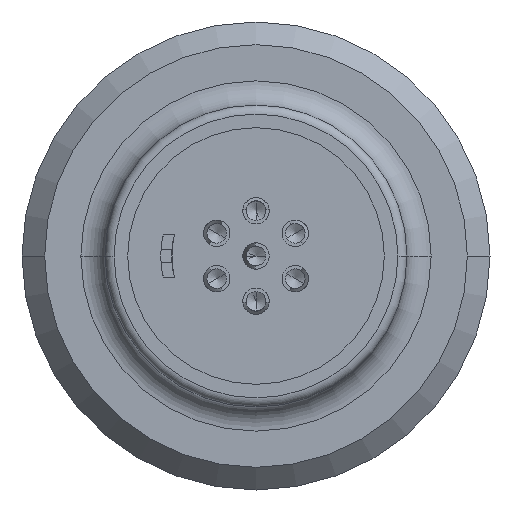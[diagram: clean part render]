
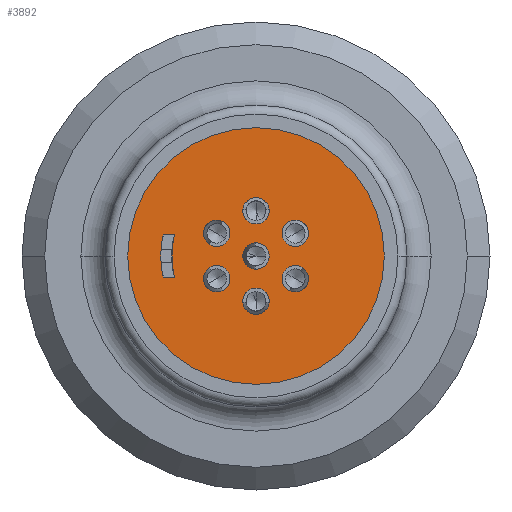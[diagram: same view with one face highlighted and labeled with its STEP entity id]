
A CAD part, left-side view. The second image highlights one B-rep face of the part: STEP entity #3892.
In plain terms, the highlighted planar face has unit normal (-1, 0, 0).
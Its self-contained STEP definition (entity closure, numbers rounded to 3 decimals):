
#178=CARTESIAN_POINT('',(-5.95,0.,0.));
#179=DIRECTION('',(1.,0.,0.));
#180=DIRECTION('',(0.,1.,0.));
#181=AXIS2_PLACEMENT_3D('',#178,#179,#180);
#183=CARTESIAN_POINT('',(-5.95,0.,0.));
#184=DIRECTION('',(1.,0.,0.));
#185=DIRECTION('',(0.,-1.,0.));
#186=AXIS2_PLACEMENT_3D('',#183,#184,#185);
#188=CARTESIAN_POINT('',(-5.95,1.299,-0.75));
#189=DIRECTION('',(-1.,0.,0.));
#190=DIRECTION('',(0.,0.866,-0.5));
#191=AXIS2_PLACEMENT_3D('',#188,#189,#190);
#193=CARTESIAN_POINT('',(-5.95,1.299,-0.75));
#194=DIRECTION('',(-1.,0.,0.));
#195=DIRECTION('',(0.,-0.866,0.5));
#196=AXIS2_PLACEMENT_3D('',#193,#194,#195);
#198=CARTESIAN_POINT('',(-5.95,0.,-1.5));
#199=DIRECTION('',(-1.,0.,0.));
#200=DIRECTION('',(0.,0.,-1.));
#201=AXIS2_PLACEMENT_3D('',#198,#199,#200);
#203=CARTESIAN_POINT('',(-5.95,0.,-1.5));
#204=DIRECTION('',(-1.,0.,0.));
#205=DIRECTION('',(0.,0.,1.));
#206=AXIS2_PLACEMENT_3D('',#203,#204,#205);
#208=CARTESIAN_POINT('',(-5.95,-1.299,-0.75));
#209=DIRECTION('',(-1.,0.,0.));
#210=DIRECTION('',(0.,-0.866,-0.5));
#211=AXIS2_PLACEMENT_3D('',#208,#209,#210);
#213=CARTESIAN_POINT('',(-5.95,-1.299,-0.75));
#214=DIRECTION('',(-1.,0.,0.));
#215=DIRECTION('',(0.,0.866,0.5));
#216=AXIS2_PLACEMENT_3D('',#213,#214,#215);
#218=CARTESIAN_POINT('',(-5.95,-1.299,0.75));
#219=DIRECTION('',(-1.,0.,0.));
#220=DIRECTION('',(0.,-0.866,0.5));
#221=AXIS2_PLACEMENT_3D('',#218,#219,#220);
#223=CARTESIAN_POINT('',(-5.95,-1.299,0.75));
#224=DIRECTION('',(-1.,0.,0.));
#225=DIRECTION('',(0.,0.866,-0.5));
#226=AXIS2_PLACEMENT_3D('',#223,#224,#225);
#228=CARTESIAN_POINT('',(-5.95,0.,1.5));
#229=DIRECTION('',(-1.,0.,0.));
#230=DIRECTION('',(0.,0.,1.));
#231=AXIS2_PLACEMENT_3D('',#228,#229,#230);
#233=CARTESIAN_POINT('',(-5.95,0.,1.5));
#234=DIRECTION('',(-1.,0.,0.));
#235=DIRECTION('',(0.,0.,-1.));
#236=AXIS2_PLACEMENT_3D('',#233,#234,#235);
#238=CARTESIAN_POINT('',(-5.95,1.299,0.75));
#239=DIRECTION('',(-1.,0.,0.));
#240=DIRECTION('',(0.,0.866,0.5));
#241=AXIS2_PLACEMENT_3D('',#238,#239,#240);
#243=CARTESIAN_POINT('',(-5.95,1.299,0.75));
#244=DIRECTION('',(-1.,0.,0.));
#245=DIRECTION('',(0.,-0.866,-0.5));
#246=AXIS2_PLACEMENT_3D('',#243,#244,#245);
#248=CARTESIAN_POINT('',(-5.95,0.,0.));
#249=DIRECTION('',(-1.,0.,0.));
#250=DIRECTION('',(0.,1.,0.));
#251=AXIS2_PLACEMENT_3D('',#248,#249,#250);
#253=CARTESIAN_POINT('',(-5.95,0.,0.));
#254=DIRECTION('',(-1.,0.,0.));
#255=DIRECTION('',(0.,-1.,0.));
#256=AXIS2_PLACEMENT_3D('',#253,#254,#255);
#258=CARTESIAN_POINT('',(-5.95,0.,0.));
#259=DIRECTION('',(-1.,0.,0.));
#260=DIRECTION('',(0.,0.975,0.222));
#261=AXIS2_PLACEMENT_3D('',#258,#259,#260);
#263=CARTESIAN_POINT('',(-5.95,0.,0.));
#264=DIRECTION('',(1.,0.,0.));
#265=DIRECTION('',(0.,0.968,-0.251));
#266=AXIS2_PLACEMENT_3D('',#263,#264,#265);
#2954=DIRECTION('',(0.,-1.,0.));
#2955=VECTOR('',#2954,0.37);
#2956=CARTESIAN_POINT('',(-5.95,3.071,0.7));
#2957=LINE('',#2956,#2955);
#2974=DIRECTION('',(0.,1.,0.));
#2975=VECTOR('',#2974,0.37);
#2976=CARTESIAN_POINT('',(-5.95,2.701,-0.7));
#2977=LINE('',#2976,#2975);
#3066=CARTESIAN_POINT('',(-5.95,-0.922,0.533));
#3067=CARTESIAN_POINT('',(-5.95,-1.676,0.968));
#3068=VERTEX_POINT('',#3066);
#3069=VERTEX_POINT('',#3067);
#3070=CARTESIAN_POINT('',(-5.95,4.25,0.));
#3071=CARTESIAN_POINT('',(-5.95,-4.25,0.));
#3072=VERTEX_POINT('',#3070);
#3073=VERTEX_POINT('',#3071);
#3074=CARTESIAN_POINT('',(-5.95,1.676,-0.968));
#3075=CARTESIAN_POINT('',(-5.95,0.922,-0.533));
#3076=VERTEX_POINT('',#3074);
#3077=VERTEX_POINT('',#3075);
#3078=CARTESIAN_POINT('',(-5.95,0.,-1.935));
#3079=CARTESIAN_POINT('',(-5.95,0.,-1.065));
#3080=VERTEX_POINT('',#3078);
#3081=VERTEX_POINT('',#3079);
#3082=CARTESIAN_POINT('',(-5.95,-1.676,-0.968));
#3083=CARTESIAN_POINT('',(-5.95,-0.922,-0.533));
#3084=VERTEX_POINT('',#3082);
#3085=VERTEX_POINT('',#3083);
#3086=CARTESIAN_POINT('',(-5.95,0.,1.935));
#3087=CARTESIAN_POINT('',(-5.95,0.,1.065));
#3088=VERTEX_POINT('',#3086);
#3089=VERTEX_POINT('',#3087);
#3090=CARTESIAN_POINT('',(-5.95,1.676,0.968));
#3091=CARTESIAN_POINT('',(-5.95,0.922,0.533));
#3092=VERTEX_POINT('',#3090);
#3093=VERTEX_POINT('',#3091);
#3094=CARTESIAN_POINT('',(-5.95,0.435,0.));
#3095=CARTESIAN_POINT('',(-5.95,-0.435,0.));
#3096=VERTEX_POINT('',#3094);
#3097=VERTEX_POINT('',#3095);
#3098=CARTESIAN_POINT('',(-5.95,3.071,0.7));
#3099=CARTESIAN_POINT('',(-5.95,3.071,-0.7));
#3100=VERTEX_POINT('',#3098);
#3101=VERTEX_POINT('',#3099);
#3102=CARTESIAN_POINT('',(-5.95,2.701,-0.7));
#3103=VERTEX_POINT('',#3102);
#3104=CARTESIAN_POINT('',(-5.95,2.701,0.7));
#3105=VERTEX_POINT('',#3104);
#3830=CARTESIAN_POINT('',(-5.95,0.,0.));
#3831=DIRECTION('',(1.,0.,0.));
#3832=DIRECTION('',(0.,-1.,0.));
#3833=AXIS2_PLACEMENT_3D('',#3830,#3831,#3832);
#3834=PLANE('',#3833);
#3836=ORIENTED_EDGE('',*,*,#3835,.T.);
#3838=ORIENTED_EDGE('',*,*,#3837,.T.);
#3839=EDGE_LOOP('',(#3836,#3838));
#3840=FACE_OUTER_BOUND('',#3839,.F.);
#3842=ORIENTED_EDGE('',*,*,#3841,.T.);
#3844=ORIENTED_EDGE('',*,*,#3843,.T.);
#3845=EDGE_LOOP('',(#3842,#3844));
#3846=FACE_BOUND('',#3845,.F.);
#3848=ORIENTED_EDGE('',*,*,#3847,.T.);
#3850=ORIENTED_EDGE('',*,*,#3849,.T.);
#3851=EDGE_LOOP('',(#3848,#3850));
#3852=FACE_BOUND('',#3851,.F.);
#3854=ORIENTED_EDGE('',*,*,#3853,.T.);
#3856=ORIENTED_EDGE('',*,*,#3855,.T.);
#3857=EDGE_LOOP('',(#3854,#3856));
#3858=FACE_BOUND('',#3857,.F.);
#3860=ORIENTED_EDGE('',*,*,#3859,.T.);
#3861=ORIENTED_EDGE('',*,*,#3812,.T.);
#3862=EDGE_LOOP('',(#3860,#3861));
#3863=FACE_BOUND('',#3862,.F.);
#3865=ORIENTED_EDGE('',*,*,#3864,.T.);
#3867=ORIENTED_EDGE('',*,*,#3866,.T.);
#3868=EDGE_LOOP('',(#3865,#3867));
#3869=FACE_BOUND('',#3868,.F.);
#3871=ORIENTED_EDGE('',*,*,#3870,.T.);
#3873=ORIENTED_EDGE('',*,*,#3872,.T.);
#3874=EDGE_LOOP('',(#3871,#3873));
#3875=FACE_BOUND('',#3874,.F.);
#3877=ORIENTED_EDGE('',*,*,#3876,.T.);
#3879=ORIENTED_EDGE('',*,*,#3878,.T.);
#3880=EDGE_LOOP('',(#3877,#3879));
#3881=FACE_BOUND('',#3880,.F.);
#3883=ORIENTED_EDGE('',*,*,#3882,.T.);
#3885=ORIENTED_EDGE('',*,*,#3884,.F.);
#3887=ORIENTED_EDGE('',*,*,#3886,.T.);
#3889=ORIENTED_EDGE('',*,*,#3888,.F.);
#3890=EDGE_LOOP('',(#3883,#3885,#3887,#3889));
#3891=FACE_BOUND('',#3890,.F.);
#182=CIRCLE('',#181,4.25);
#187=CIRCLE('',#186,4.25);
#192=CIRCLE('',#191,0.435);
#197=CIRCLE('',#196,0.435);
#202=CIRCLE('',#201,0.435);
#207=CIRCLE('',#206,0.435);
#212=CIRCLE('',#211,0.435);
#217=CIRCLE('',#216,0.435);
#222=CIRCLE('',#221,0.435);
#227=CIRCLE('',#226,0.435);
#232=CIRCLE('',#231,0.435);
#237=CIRCLE('',#236,0.435);
#242=CIRCLE('',#241,0.435);
#247=CIRCLE('',#246,0.435);
#252=CIRCLE('',#251,0.435);
#257=CIRCLE('',#256,0.435);
#262=CIRCLE('',#261,3.15);
#267=CIRCLE('',#266,2.79);
#3812=EDGE_CURVE('',#3068,#3069,#227,.T.);
#3835=EDGE_CURVE('',#3072,#3073,#182,.T.);
#3837=EDGE_CURVE('',#3073,#3072,#187,.T.);
#3841=EDGE_CURVE('',#3076,#3077,#192,.T.);
#3843=EDGE_CURVE('',#3077,#3076,#197,.T.);
#3847=EDGE_CURVE('',#3080,#3081,#202,.T.);
#3849=EDGE_CURVE('',#3081,#3080,#207,.T.);
#3853=EDGE_CURVE('',#3084,#3085,#212,.T.);
#3855=EDGE_CURVE('',#3085,#3084,#217,.T.);
#3859=EDGE_CURVE('',#3069,#3068,#222,.T.);
#3864=EDGE_CURVE('',#3088,#3089,#232,.T.);
#3866=EDGE_CURVE('',#3089,#3088,#237,.T.);
#3870=EDGE_CURVE('',#3092,#3093,#242,.T.);
#3872=EDGE_CURVE('',#3093,#3092,#247,.T.);
#3876=EDGE_CURVE('',#3096,#3097,#252,.T.);
#3878=EDGE_CURVE('',#3097,#3096,#257,.T.);
#3882=EDGE_CURVE('',#3100,#3101,#262,.T.);
#3884=EDGE_CURVE('',#3103,#3101,#2977,.T.);
#3886=EDGE_CURVE('',#3103,#3105,#267,.T.);
#3888=EDGE_CURVE('',#3100,#3105,#2957,.T.);
#3892=ADVANCED_FACE('',(#3840,#3846,#3852,#3858,#3863,#3869,#3875,#3881,#3891),
#3834,.F.);
